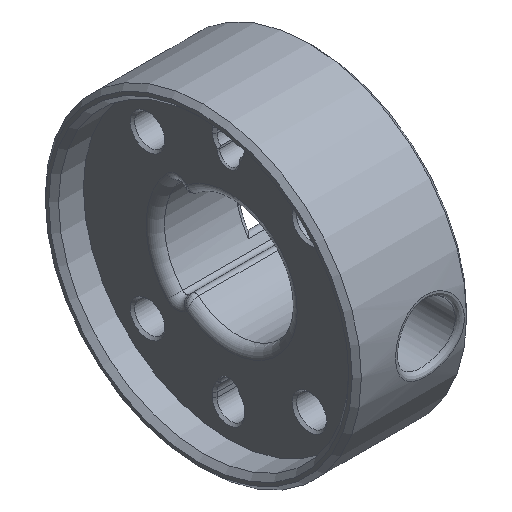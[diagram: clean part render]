
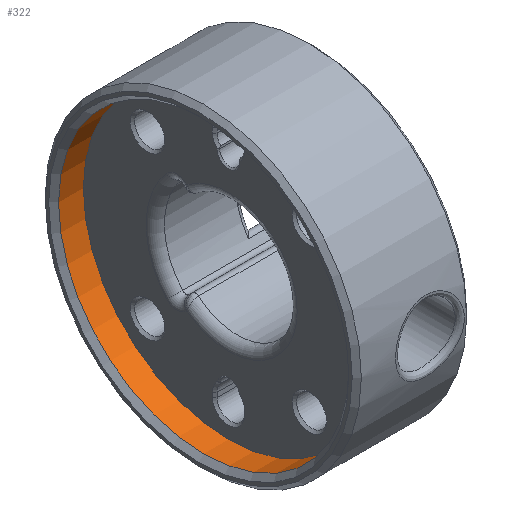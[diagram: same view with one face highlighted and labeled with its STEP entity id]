
A CAD part, isometric view. The second image highlights one B-rep face of the part: STEP entity #322.
In plain terms, the highlighted cylindrical face has radius 31.7 mm (diameter 63.4 mm), a full revolution.
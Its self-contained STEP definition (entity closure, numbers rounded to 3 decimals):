
#28 = ORIENTED_EDGE ( 'NONE', *, *, #4280, .T. ) ;
#93 = DIRECTION ( 'NONE',  ( -1., 0., 0. ) ) ;
#297 = CARTESIAN_POINT ( 'NONE',  ( -2.917, 0., 0. ) ) ;
#322 = ADVANCED_FACE ( 'NONE', ( #2866, #3176 ), #2107, .F. ) ;
#924 = CARTESIAN_POINT ( 'NONE',  ( 2.5, 0., 31.7 ) ) ;
#1383 = AXIS2_PLACEMENT_3D ( 'NONE', #3183, #93, #2443 ) ;
#1714 = CIRCLE ( 'NONE', #1965, 31.7 ) ;
#1965 = AXIS2_PLACEMENT_3D ( 'NONE', #297, #2721, #3856 ) ;
#2107 = CYLINDRICAL_SURFACE ( 'NONE', #4540, 31.7 ) ;
#2158 = VERTEX_POINT ( 'NONE', #2911 ) ;
#2443 = DIRECTION ( 'NONE',  ( 0., 0., 1. ) ) ;
#2721 = DIRECTION ( 'NONE',  ( -1., 0., 0. ) ) ;
#2866 = FACE_OUTER_BOUND ( 'NONE', #5051, .T. ) ;
#2911 = CARTESIAN_POINT ( 'NONE',  ( -2.917, 0., 31.7 ) ) ;
#3176 = FACE_OUTER_BOUND ( 'NONE', #4632, .T. ) ;
#3183 = CARTESIAN_POINT ( 'NONE',  ( 2.5, 0., 0. ) ) ;
#3228 = DIRECTION ( 'NONE',  ( 0., 0., 1. ) ) ;
#3266 = ORIENTED_EDGE ( 'NONE', *, *, #4031, .F. ) ;
#3856 = DIRECTION ( 'NONE',  ( 0., 0., 1. ) ) ;
#3957 = DIRECTION ( 'NONE',  ( -1., 0., 0. ) ) ;
#4031 = EDGE_CURVE ( 'NONE', #4887, #4887, #4658, .T. ) ;
#4061 = CARTESIAN_POINT ( 'NONE',  ( 2.5, 0., 0. ) ) ;
#4280 = EDGE_CURVE ( 'NONE', #2158, #2158, #1714, .T. ) ;
#4540 = AXIS2_PLACEMENT_3D ( 'NONE', #4061, #3957, #3228 ) ;
#4632 = EDGE_LOOP ( 'NONE', ( #3266 ) ) ;
#4658 = CIRCLE ( 'NONE', #1383, 31.7 ) ;
#4887 = VERTEX_POINT ( 'NONE', #924 ) ;
#5051 = EDGE_LOOP ( 'NONE', ( #28 ) ) ;
